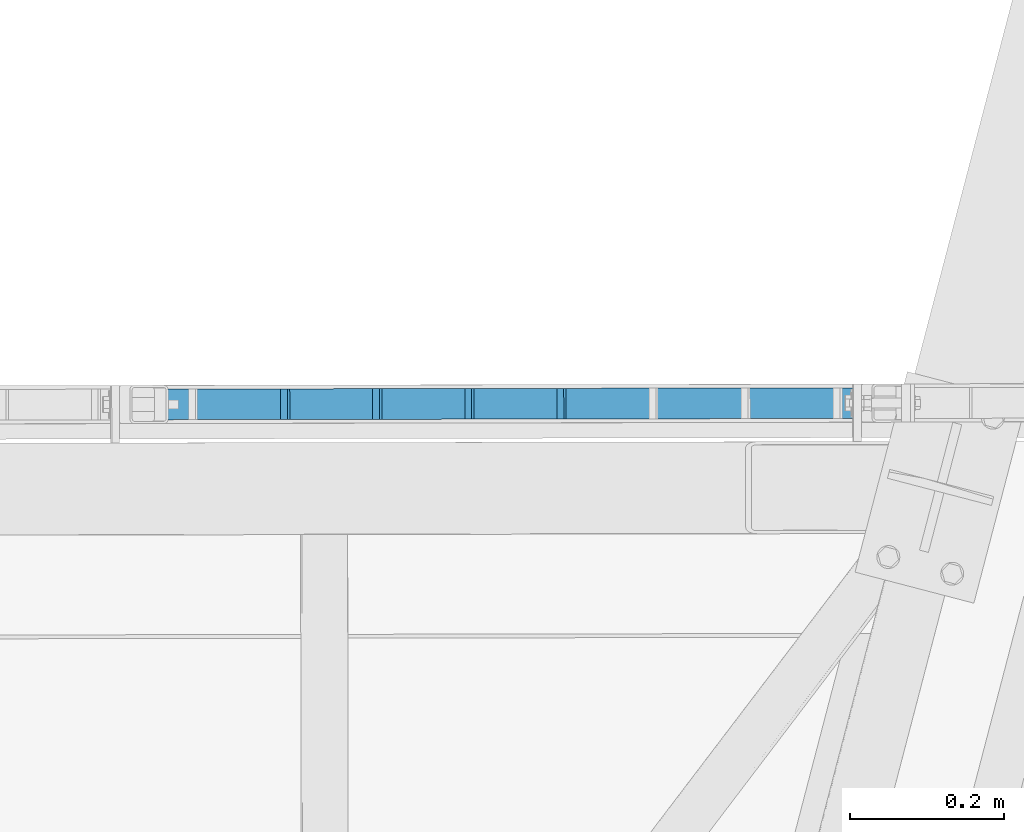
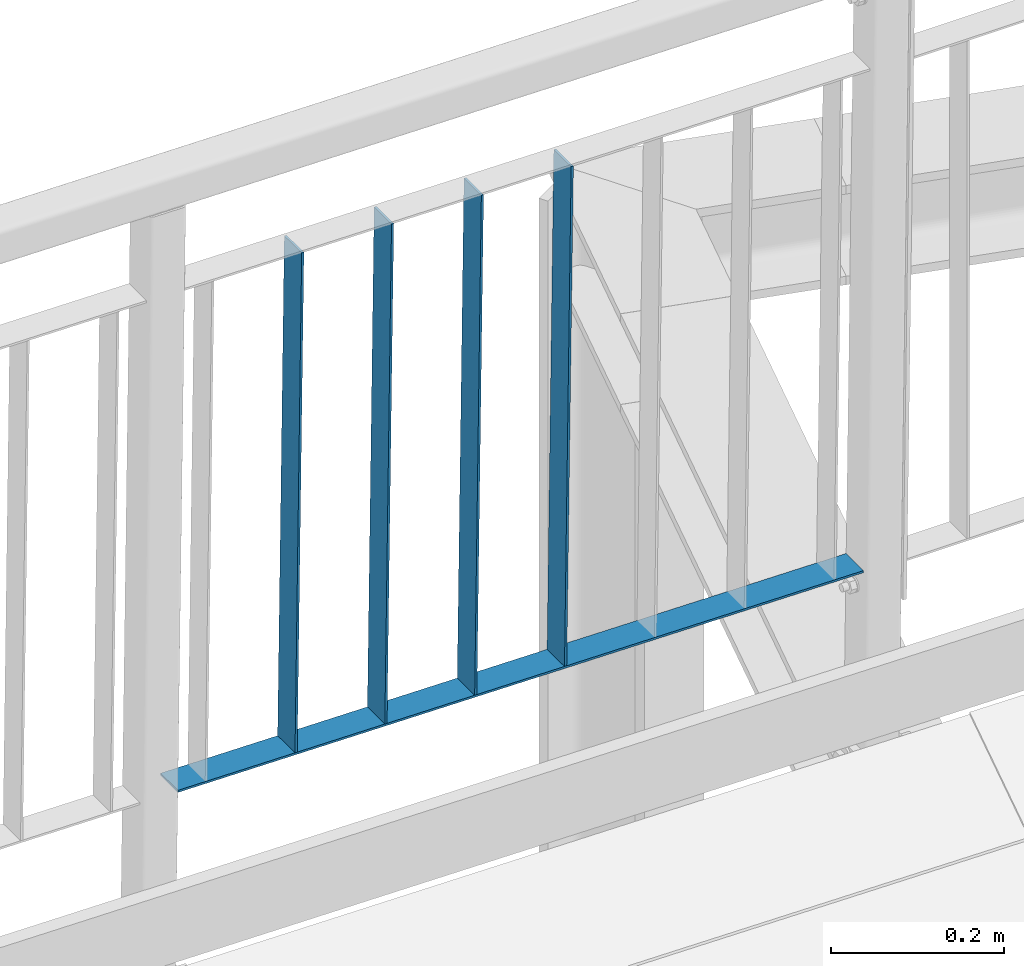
# One storey, part 122 of 169: 5 discrete accessories, 1 element without a shape of its own.
"""IFC2X3 building model written with IfcOpenShell, lengths in millimetres."""

from ifc_helpers import new_model, si_unit, frame, origin_with_axes, origin_2d_with_axis, place, context, subcontext, project, spatial, polyline, rectangle, outline, extrude, boolean, clip, halfspace, material, type_object, element, aggregate, save


model = new_model("IFC2X3")

# Units and contexts
model_context = context("Model", 3, precision=1e-05, world=origin_with_axes())
body_context = subcontext(model_context, "Body", "Model", "MODEL_VIEW")
ifc_project = project(units=[si_unit("LENGTHUNIT", "METRE", prefix="MILLI"), si_unit("AREAUNIT", "SQUARE_METRE"), si_unit("VOLUMEUNIT", "CUBIC_METRE"), si_unit("MASSUNIT", "GRAM", prefix="KILO"), si_unit("TIMEUNIT", "SECOND"), si_unit("PLANEANGLEUNIT", "RADIAN"), si_unit("SOLIDANGLEUNIT", "STERADIAN"), si_unit("THERMODYNAMICTEMPERATUREUNIT", "DEGREE_CELSIUS"), si_unit("LUMINOUSINTENSITYUNIT", "LUMEN")], contexts=[model_context])

# Site, building, storey
site_placement = place(None, origin_with_axes())
site = spatial("IfcSite", under=ifc_project, at=site_placement, Name="Undefined", CompositionType="ELEMENT")
building_placement = place(site_placement, origin_with_axes())
building = spatial("IfcBuilding", under=site, at=building_placement, Name="Undefined", CompositionType="ELEMENT")
storey_placement = place(building_placement, origin_with_axes())
storey = spatial("IfcBuildingStorey", under=building, at=storey_placement, Name="Undefined", CompositionType="ELEMENT", Elevation=0.0)

# Assembly, discrete accessories
assembly_placement = place(storey_placement, origin_with_axes())
assembly = element("IfcElementAssembly", 1, at=assembly_placement, inside=storey, Name="Steel Assembly", AssemblyPlace="NOTDEFINED", PredefinedType="RIGID_FRAME")
ifc_material = material(Name="STEEL/S235")
discrete_accessory_type = type_object("IfcDiscreteAccessoryType", Name="PORĘCZ")
discrete_accessory_1_placement = place(assembly_placement, frame((18148.5690066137, 2388.86250217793, 14883.5682725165), z_axis=(0.00186484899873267, -0.999998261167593, 4.28757666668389e-08), x_axis=(-0.012713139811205, -2.37511238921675e-05, -0.999919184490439)))
discrete_accessory_1 = element("IfcDiscreteAccessory", 2, at=discrete_accessory_1_placement, type_object=discrete_accessory_type, material=ifc_material, Name="PORĘCZ", ObjectType="BL40*3", context=body_context, shape_type="Clipping", body=[
    clip(clip(extrude(rectangle(XDim=3.0, YDim=40.0, at=origin_2d_with_axis()), frame((848.500000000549, 1.47191286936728e-15, -8.89750592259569e-16), z_axis=(-1.0, -3.46944695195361e-18, -1.38777878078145e-17), x_axis=(1.73472347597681e-18, -1.0, 0.0)), (0.0, 0.0, 1.0), 702.0), halfspace(frame((848.499999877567, 4.522007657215e-09, 1000.00000000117), z_axis=(-1.0, -3.46944695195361e-18, -1.38777878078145e-17), x_axis=(1.73472347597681e-18, -1.0, 0.0)), True)), halfspace(frame((146.499999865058, 4.97311702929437e-09, 1000.00000000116), z_axis=(1.0, 0.0, 0.0), x_axis=(0.0, 1.0, 0.0)), True)),
])
discrete_accessory_2_placement = place(assembly_placement, frame((18268.5591001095, 2389.08626593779, 14882.0426930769), z_axis=(0.00186484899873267, -0.999998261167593, 4.28757666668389e-08), x_axis=(-0.012713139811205, -2.37511238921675e-05, -0.999919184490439)))
discrete_accessory_2 = element("IfcDiscreteAccessory", 3, at=discrete_accessory_2_placement, type_object=discrete_accessory_type, material=ifc_material, Name="PORĘCZ", ObjectType="BL40*3", context=body_context, shape_type="Clipping", body=[
    clip(clip(extrude(rectangle(XDim=3.0, YDim=40.0, at=origin_2d_with_axis()), frame((848.500000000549, 1.47191286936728e-15, -8.89750592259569e-16), z_axis=(-1.0, -3.46944695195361e-18, -1.38777878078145e-17), x_axis=(1.73472347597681e-18, -1.0, 0.0)), (0.0, 0.0, 1.0), 702.0), halfspace(frame((848.499999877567, 4.522007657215e-09, 1000.00000000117), z_axis=(-1.0, -3.46944695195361e-18, -1.38777878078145e-17), x_axis=(1.73472347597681e-18, -1.0, 0.0)), True)), halfspace(frame((146.499999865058, 4.97311702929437e-09, 1000.00000000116), z_axis=(1.0, 0.0, 0.0), x_axis=(0.0, 1.0, 0.0)), True)),
])
discrete_accessory_3_placement = place(assembly_placement, frame((18388.5491936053, 2389.31002969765, 14880.5171136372), z_axis=(0.00186484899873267, -0.999998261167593, 4.28757666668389e-08), x_axis=(-0.012713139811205, -2.37511238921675e-05, -0.999919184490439)))
discrete_accessory_3 = element("IfcDiscreteAccessory", 4, at=discrete_accessory_3_placement, type_object=discrete_accessory_type, material=ifc_material, Name="PORĘCZ", ObjectType="BL40*3", context=body_context, shape_type="Clipping", body=[
    clip(clip(extrude(rectangle(XDim=3.0, YDim=40.0, at=origin_2d_with_axis()), frame((848.500000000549, 1.47191286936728e-15, -8.89750592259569e-16), z_axis=(-1.0, -3.46944695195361e-18, -1.38777878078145e-17), x_axis=(1.73472347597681e-18, -1.0, 0.0)), (0.0, 0.0, 1.0), 702.0), halfspace(frame((848.499999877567, 4.522007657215e-09, 1000.00000000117), z_axis=(-1.0, -3.46944695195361e-18, -1.38777878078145e-17), x_axis=(1.73472347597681e-18, -1.0, 0.0)), True)), halfspace(frame((146.499999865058, 4.97311702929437e-09, 1000.00000000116), z_axis=(1.0, 0.0, 0.0), x_axis=(0.0, 1.0, 0.0)), True)),
])
discrete_accessory_4_placement = place(assembly_placement, frame((18508.5392871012, 2389.53379345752, 14878.9915341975), z_axis=(0.00186484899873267, -0.999998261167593, 4.28757666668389e-08), x_axis=(-0.012713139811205, -2.37511238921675e-05, -0.999919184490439)))
discrete_accessory_4 = element("IfcDiscreteAccessory", 5, at=discrete_accessory_4_placement, type_object=discrete_accessory_type, material=ifc_material, Name="PORĘCZ", ObjectType="BL40*3", context=body_context, shape_type="Clipping", body=[
    clip(clip(extrude(rectangle(XDim=3.0, YDim=40.0, at=origin_2d_with_axis()), frame((848.500000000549, 1.47191286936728e-15, -8.89750592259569e-16), z_axis=(-1.0, -3.46944695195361e-18, -1.38777878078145e-17), x_axis=(1.73472347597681e-18, -1.0, 0.0)), (0.0, 0.0, 1.0), 702.0), halfspace(frame((848.499999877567, 4.522007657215e-09, 1000.00000000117), z_axis=(-1.0, -3.46944695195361e-18, -1.38777878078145e-17), x_axis=(1.73472347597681e-18, -1.0, 0.0)), True)), halfspace(frame((146.499999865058, 4.97311702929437e-09, 1000.00000000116), z_axis=(1.0, 0.0, 0.0), x_axis=(0.0, 1.0, 0.0)), True)),
])
discrete_accessory_5_placement = place(assembly_placement, frame((17954.4307446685, 2388.50042651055, 14035.967888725), z_axis=(-0.012713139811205, -2.37511238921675e-05, -0.999919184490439), x_axis=(0.9999174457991, 0.00186469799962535, -0.0127131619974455)))
discrete_accessory_5 = element("IfcDiscreteAccessory", 6, at=discrete_accessory_5_placement, type_object=discrete_accessory_type, material=ifc_material, Name="PORĘCZ", ObjectType="BL40*3", context=body_context, shape_type="CSG", body=[
    boolean("DIFFERENCE", boolean("DIFFERENCE", extrude(outline(polyline([(25.4999999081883, 20.0000000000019), (941.194458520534, 20.0000000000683), (941.194458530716, -19.9999999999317), (25.499999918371, -19.9999999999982), (25.4999999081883, 20.0000000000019)])), frame((1.81898940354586e-12, -1.77635442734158e-15, -1.50000000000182), z_axis=(0.0, 0.0, 1.0), x_axis=(1.0, 0.0, 0.0)), (0.0, 0.0, 1.0), 3.0), extrude(rectangle(XDim=51.0, YDim=51.0, at=origin_2d_with_axis()), frame((-5.94487782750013e-08, -4.65977194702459e-09, -139.999999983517), z_axis=(0.0, 0.0, 1.0), x_axis=(1.0, 0.0, 0.0)), (0.0, 0.0, 1.0), 280.0)), extrude(rectangle(XDim=51.0, YDim=51.0, at=origin_2d_with_axis()), frame((966.694458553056, -6.96000839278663e-09, -139.999999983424), z_axis=(0.0, 0.0, 1.0), x_axis=(1.0, 0.0, 0.0)), (0.0, 0.0, 1.0), 280.0)),
])
aggregate(assembly, [discrete_accessory_1, discrete_accessory_2, discrete_accessory_3, discrete_accessory_4, discrete_accessory_5])

save(model, "model.ifc")
